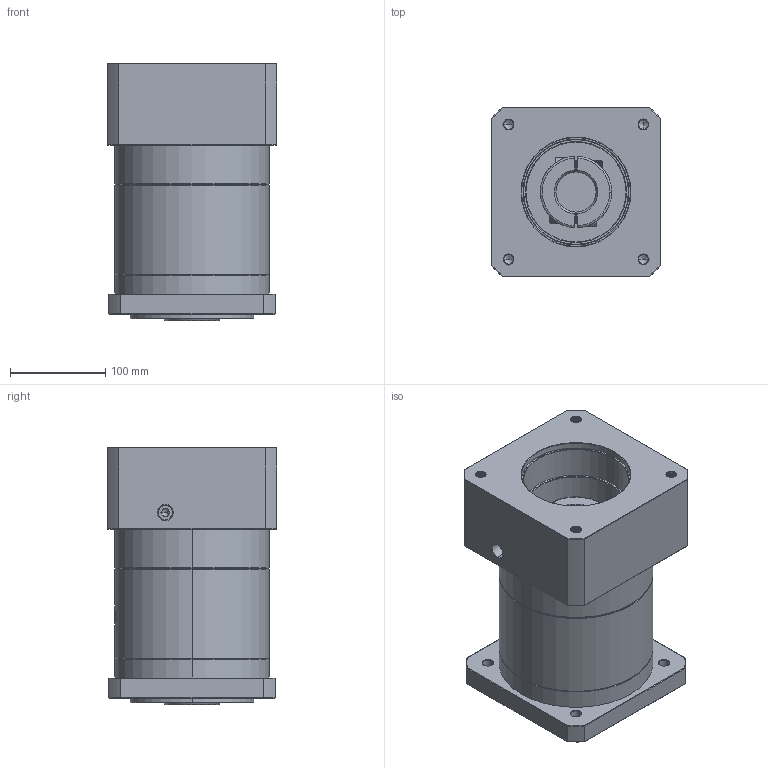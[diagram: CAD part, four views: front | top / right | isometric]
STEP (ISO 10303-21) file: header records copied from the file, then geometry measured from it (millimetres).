
FILE_DESCRIPTION (( 'STEP AP214' ), '1' );
FILE_NAME ('ZF160A-K35-L2-P2-42-114.3-200-M12.step', '2023-09-03T07:03:38', ( '' ), ( '' ), 'SwSTEP 2.0', 'SolidWorks 2016', '' );
FILE_SCHEMA (( 'AUTOMOTIVE_DESIGN' ));
Length unit declared in the file: millimetre
Products named in the file (1): ZF160A-K35-L2-P2-42-114.3-200-M12
Bounding box: 178 x 178 x 270.2 mm (x, y, z)
Volume: 5751283.2 mm3; surface area: 374917 mm2
Topology: 5 solids, 5 shells, 2121 faces, 5730 edges, 3715 vertices
Faces by surface type: plane 1008, bspline 404, cylinder 372, cone 317, torus 20
Entity records: 118668 total; most frequent: CARTESIAN_POINT 46898, ORIENTED_EDGE 11404, DIRECTION 8350, EDGE_CURVE 5702, VERTEX_POINT 3715, VECTOR 2988, LINE 2988, AXIS2_PLACEMENT_3D 2681
